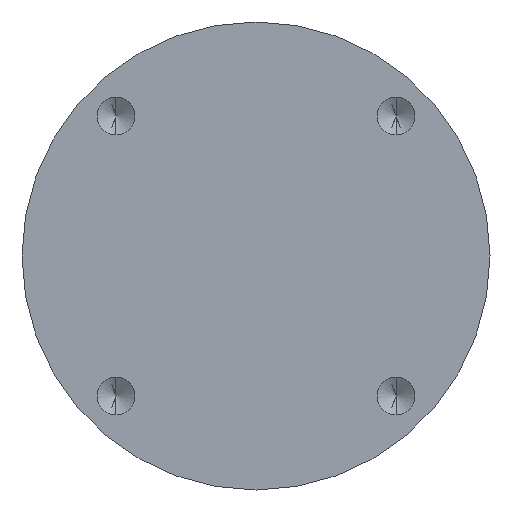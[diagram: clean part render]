
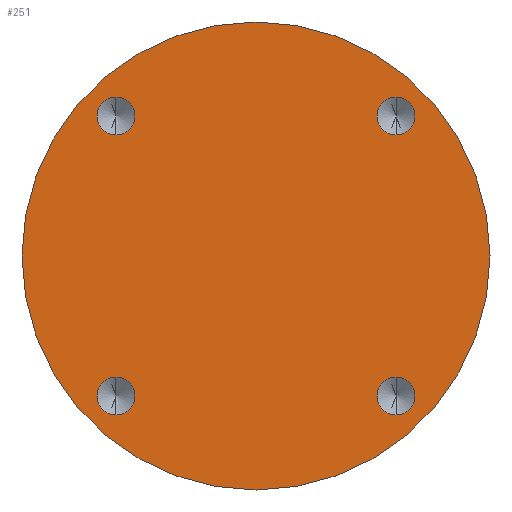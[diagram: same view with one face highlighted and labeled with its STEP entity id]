
A CAD part, front view. The second image highlights one B-rep face of the part: STEP entity #251.
In plain terms, the highlighted planar face has unit normal (0, -1, 0).
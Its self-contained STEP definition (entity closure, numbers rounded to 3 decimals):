
#28 = EDGE_CURVE ( 'NONE', #88, #29, #324, .T. ) ;
#29 = VERTEX_POINT ( 'NONE', #146 ) ;
#58 = VERTEX_POINT ( 'NONE', #350 ) ;
#67 = EDGE_CURVE ( 'NONE', #73, #75, #261, .T. ) ;
#73 = VERTEX_POINT ( 'NONE', #388 ) ;
#75 = VERTEX_POINT ( 'NONE', #387 ) ;
#78 = VERTEX_POINT ( 'NONE', #384 ) ;
#85 = EDGE_CURVE ( 'NONE', #58, #98, #511, .T. ) ;
#88 = VERTEX_POINT ( 'NONE', #571 ) ;
#98 = VERTEX_POINT ( 'NONE', #517 ) ;
#103 = EDGE_CURVE ( 'NONE', #78, #106, #447, .T. ) ;
#106 = VERTEX_POINT ( 'NONE', #497 ) ;
#135 = ORIENTED_EDGE ( 'NONE', *, *, #136, .F. ) ;
#136 = EDGE_CURVE ( 'NONE', #29, #88, #554, .T. ) ;
#137 = ORIENTED_EDGE ( 'NONE', *, *, #28, .F. ) ;
#146 = CARTESIAN_POINT ( 'NONE',  ( -15.556, 0., -17.656 ) ) ;
#147 = DIRECTION ( 'NONE',  ( 0., 0., -1. ) ) ;
#148 = DIRECTION ( 'NONE',  ( 0., -1., 0. ) ) ;
#149 = CARTESIAN_POINT ( 'NONE',  ( -15.556, 0., -15.556 ) ) ;
#162 = VERTEX_POINT ( 'NONE', #519 ) ;
#167 = EDGE_CURVE ( 'NONE', #162, #330, #612, .T. ) ;
#203 = EDGE_CURVE ( 'NONE', #330, #162, #560, .T. ) ;
#236 = ORIENTED_EDGE ( 'NONE', *, *, #237, .F. ) ;
#237 = EDGE_CURVE ( 'NONE', #106, #78, #496, .T. ) ;
#238 = ORIENTED_EDGE ( 'NONE', *, *, #103, .F. ) ;
#239 = EDGE_LOOP ( 'NONE', ( #272, #274 ) ) ;
#250 = EDGE_LOOP ( 'NONE', ( #236, #238 ) ) ;
#251 = ADVANCED_FACE ( 'NONE', ( #420, #416, #415, #414, #413 ), #412, .F. ) ;
#252 = EDGE_LOOP ( 'NONE', ( #253, #379 ) ) ;
#253 = ORIENTED_EDGE ( 'NONE', *, *, #378, .F. ) ;
#256 = CARTESIAN_POINT ( 'NONE',  ( -15.556, 0., 15.556 ) ) ;
#257 = AXIS2_PLACEMENT_3D ( 'NONE', #256, #399, #398 ) ;
#261 = CIRCLE ( 'NONE', #257, 2.1 ) ;
#272 = ORIENTED_EDGE ( 'NONE', *, *, #273, .F. ) ;
#273 = EDGE_CURVE ( 'NONE', #98, #58, #724, .T. ) ;
#274 = ORIENTED_EDGE ( 'NONE', *, *, #85, .F. ) ;
#275 = EDGE_LOOP ( 'NONE', ( #135, #137 ) ) ;
#323 = AXIS2_PLACEMENT_3D ( 'NONE', #149, #148, #147 ) ;
#324 = CIRCLE ( 'NONE', #323, 2.1 ) ;
#330 = VERTEX_POINT ( 'NONE', #657 ) ;
#350 = CARTESIAN_POINT ( 'NONE',  ( 15.556, 0., -13.456 ) ) ;
#369 = EDGE_LOOP ( 'NONE', ( #370, #371 ) ) ;
#370 = ORIENTED_EDGE ( 'NONE', *, *, #167, .F. ) ;
#371 = ORIENTED_EDGE ( 'NONE', *, *, #203, .F. ) ;
#378 = EDGE_CURVE ( 'NONE', #75, #73, #645, .T. ) ;
#379 = ORIENTED_EDGE ( 'NONE', *, *, #67, .F. ) ;
#384 = CARTESIAN_POINT ( 'NONE',  ( 15.556, 0., 17.656 ) ) ;
#387 = CARTESIAN_POINT ( 'NONE',  ( -15.556, 0., 13.456 ) ) ;
#388 = CARTESIAN_POINT ( 'NONE',  ( -15.556, 0., 17.656 ) ) ;
#398 = DIRECTION ( 'NONE',  ( 0., 0., -1. ) ) ;
#399 = DIRECTION ( 'NONE',  ( 0., -1., 0. ) ) ;
#407 = DIRECTION ( 'NONE',  ( 0., 0., 1. ) ) ;
#408 = DIRECTION ( 'NONE',  ( 0., 1., 0. ) ) ;
#409 = CARTESIAN_POINT ( 'NONE',  ( 0., 0., 0. ) ) ;
#411 = AXIS2_PLACEMENT_3D ( 'NONE', #409, #408, #407 ) ;
#412 = PLANE ( 'NONE',  #411 ) ;
#413 = FACE_OUTER_BOUND ( 'NONE', #369, .T. ) ;
#414 = FACE_BOUND ( 'NONE', #275, .T. ) ;
#415 = FACE_BOUND ( 'NONE', #239, .T. ) ;
#416 = FACE_BOUND ( 'NONE', #250, .T. ) ;
#420 = FACE_BOUND ( 'NONE', #252, .T. ) ;
#443 = CARTESIAN_POINT ( 'NONE',  ( 15.556, 0., 15.556 ) ) ;
#446 = AXIS2_PLACEMENT_3D ( 'NONE', #443, #614, #613 ) ;
#447 = CIRCLE ( 'NONE', #446, 2.1 ) ;
#492 = DIRECTION ( 'NONE',  ( 0., 0., -1. ) ) ;
#493 = DIRECTION ( 'NONE',  ( 0., -1., 0. ) ) ;
#494 = CARTESIAN_POINT ( 'NONE',  ( 15.556, 0., 15.556 ) ) ;
#495 = AXIS2_PLACEMENT_3D ( 'NONE', #494, #493, #492 ) ;
#496 = CIRCLE ( 'NONE', #495, 2.1 ) ;
#497 = CARTESIAN_POINT ( 'NONE',  ( 15.556, 0., 13.456 ) ) ;
#511 = CIRCLE ( 'NONE', #572, 2.1 ) ;
#517 = CARTESIAN_POINT ( 'NONE',  ( 15.556, 0., -17.656 ) ) ;
#519 = CARTESIAN_POINT ( 'NONE',  ( 0., 0., -26. ) ) ;
#520 = DIRECTION ( 'NONE',  ( 0., 0., -1. ) ) ;
#521 = DIRECTION ( 'NONE',  ( 0., -1., 0. ) ) ;
#522 = CARTESIAN_POINT ( 'NONE',  ( -15.556, 0., -15.556 ) ) ;
#548 = DIRECTION ( 'NONE',  ( 0., 0., -1. ) ) ;
#553 = AXIS2_PLACEMENT_3D ( 'NONE', #522, #521, #520 ) ;
#554 = CIRCLE ( 'NONE', #553, 2.1 ) ;
#556 = DIRECTION ( 'NONE',  ( 0., -1., 0. ) ) ;
#557 = DIRECTION ( 'NONE',  ( 0., 0., 1. ) ) ;
#558 = DIRECTION ( 'NONE',  ( 0., 1., 0. ) ) ;
#559 = AXIS2_PLACEMENT_3D ( 'NONE', #566, #558, #557 ) ;
#560 = CIRCLE ( 'NONE', #559, 26. ) ;
#566 = CARTESIAN_POINT ( 'NONE',  ( 0., 0., 0. ) ) ;
#571 = CARTESIAN_POINT ( 'NONE',  ( -15.556, 0., -13.456 ) ) ;
#572 = AXIS2_PLACEMENT_3D ( 'NONE', #582, #556, #548 ) ;
#582 = CARTESIAN_POINT ( 'NONE',  ( 15.556, 0., -15.556 ) ) ;
#608 = DIRECTION ( 'NONE',  ( 0., 0., 1. ) ) ;
#609 = DIRECTION ( 'NONE',  ( 0., 1., 0. ) ) ;
#610 = CARTESIAN_POINT ( 'NONE',  ( 0., 0., 0. ) ) ;
#611 = AXIS2_PLACEMENT_3D ( 'NONE', #610, #609, #608 ) ;
#612 = CIRCLE ( 'NONE', #611, 26. ) ;
#613 = DIRECTION ( 'NONE',  ( 0., 0., -1. ) ) ;
#614 = DIRECTION ( 'NONE',  ( 0., -1., 0. ) ) ;
#638 = DIRECTION ( 'NONE',  ( 0., 0., -1. ) ) ;
#639 = DIRECTION ( 'NONE',  ( 0., -1., 0. ) ) ;
#643 = CARTESIAN_POINT ( 'NONE',  ( -15.556, 0., 15.556 ) ) ;
#644 = AXIS2_PLACEMENT_3D ( 'NONE', #643, #639, #638 ) ;
#645 = CIRCLE ( 'NONE', #644, 2.1 ) ;
#657 = CARTESIAN_POINT ( 'NONE',  ( 0., 0., 26. ) ) ;
#686 = CARTESIAN_POINT ( 'NONE',  ( 15.556, 0., -15.556 ) ) ;
#721 = DIRECTION ( 'NONE',  ( 0., 0., -1. ) ) ;
#722 = DIRECTION ( 'NONE',  ( 0., -1., 0. ) ) ;
#723 = AXIS2_PLACEMENT_3D ( 'NONE', #686, #722, #721 ) ;
#724 = CIRCLE ( 'NONE', #723, 2.1 ) ;
